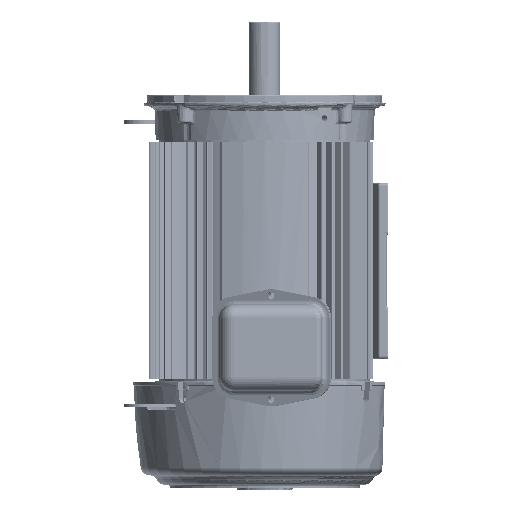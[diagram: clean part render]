
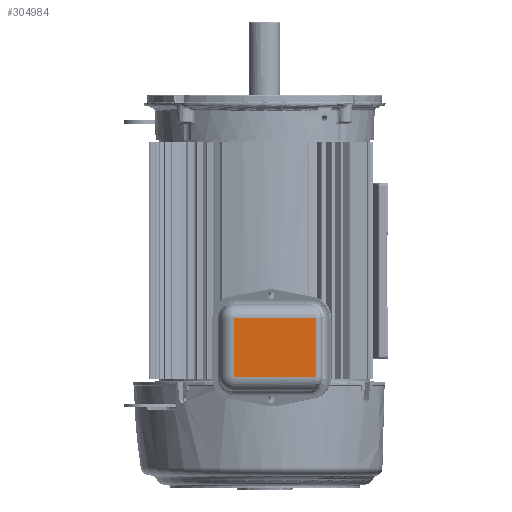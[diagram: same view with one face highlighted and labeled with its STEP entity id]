
A CAD part, left-side view. The second image highlights one B-rep face of the part: STEP entity #304984.
In plain terms, the highlighted planar face has unit normal (-1, 0, 0) as drawn and (0, 0, -1) by its records, which use the part's own axes.
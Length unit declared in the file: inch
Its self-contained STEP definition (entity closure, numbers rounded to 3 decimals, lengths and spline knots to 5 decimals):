
#302869=DIRECTION('',(0.,1.,0.));
#302870=VECTOR('',#302869,2.9822);
#302871=CARTESIAN_POINT('',(1.06,0.5,0.));
#302872=LINE('',#302871,#302870);
#302954=DIRECTION('',(-1.,0.,0.));
#302955=VECTOR('',#302954,2.12);
#302956=CARTESIAN_POINT('',(1.06,3.4822,0.));
#302957=LINE('',#302956,#302955);
#303025=DIRECTION('',(0.,-1.,0.));
#303026=VECTOR('',#303025,2.9822);
#303027=CARTESIAN_POINT('',(-1.06,3.4822,0.));
#303028=LINE('',#303027,#303026);
#303171=DIRECTION('',(1.,0.,0.));
#303172=VECTOR('',#303171,2.12);
#303173=CARTESIAN_POINT('',(-1.06,0.5,0.));
#303174=LINE('',#303173,#303172);
#303230=CARTESIAN_POINT('',(-1.06,0.5,0.));
#303231=CARTESIAN_POINT('',(1.06,0.5,0.));
#303232=VERTEX_POINT('',#303230);
#303233=VERTEX_POINT('',#303231);
#303266=CARTESIAN_POINT('',(1.06,3.4822,0.));
#303267=CARTESIAN_POINT('',(-1.06,3.4822,0.));
#303268=VERTEX_POINT('',#303266);
#303269=VERTEX_POINT('',#303267);
#304973=CARTESIAN_POINT('',(0.,0.,0.));
#304974=DIRECTION('',(0.,0.,1.));
#304975=DIRECTION('',(-1.,0.,0.));
#304976=AXIS2_PLACEMENT_3D('',#304973,#304974,#304975);
#304977=PLANE('',#304976);
#304978=ORIENTED_EDGE('',*,*,#304964,.T.);
#304979=ORIENTED_EDGE('',*,*,#304380,.T.);
#304980=ORIENTED_EDGE('',*,*,#304556,.T.);
#304981=ORIENTED_EDGE('',*,*,#304708,.T.);
#304982=EDGE_LOOP('',(#304978,#304979,#304980,#304981));
#304983=FACE_OUTER_BOUND('',#304982,.F.);
#304984=ADVANCED_FACE('',(#304983),#304977,.F.);
#304380=EDGE_CURVE('',#303233,#303268,#302872,.T.);
#304556=EDGE_CURVE('',#303268,#303269,#302957,.T.);
#304708=EDGE_CURVE('',#303269,#303232,#303028,.T.);
#304964=EDGE_CURVE('',#303232,#303233,#303174,.T.);
